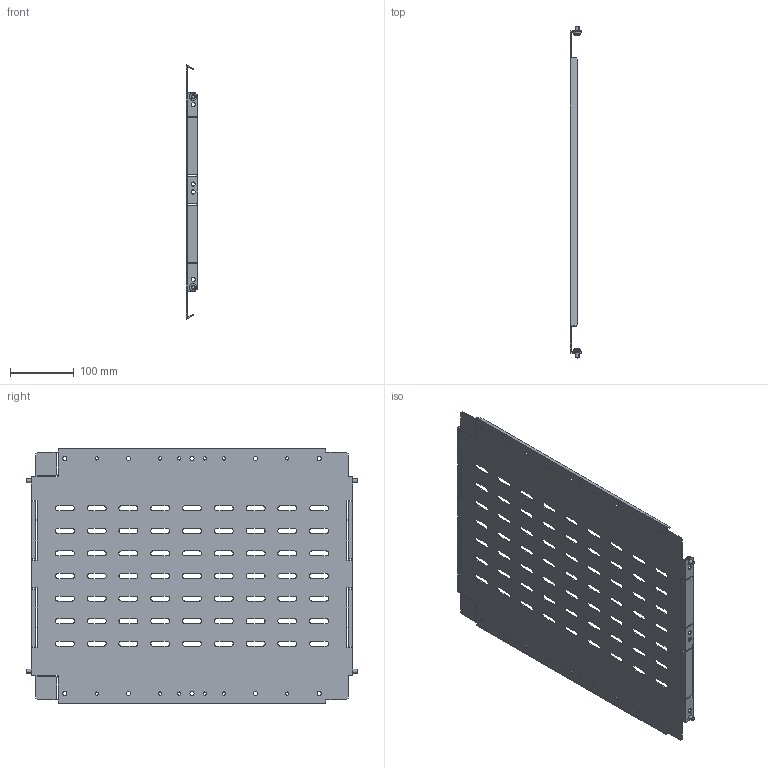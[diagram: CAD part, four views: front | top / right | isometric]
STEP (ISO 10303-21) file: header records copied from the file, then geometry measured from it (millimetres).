
FILE_DESCRIPTION (( 'STEP AP214' ), '1' );
FILE_NAME ('FO-00-SWV-040-060 Ïåðåãîðîäêà ñåêöèîíèðîâàíèÿ âåðòèêàëüíàÿ 400õ600 ìì.STEP', '2025-09-18T13:52:59', ( '' ), ( '' ), 'SwSTEP 2.0', 'SolidWorks 2023', '' );
FILE_SCHEMA (( 'AUTOMOTIVE_DESIGN' ));
Length unit declared in the file: millimetre
Products named in the file (1): FO-00-SWV-040-060 Перегородка секционирования вертикальная 400х600 мм
Bounding box: 17.5 x 521.9 x 400.39 mm (x, y, z)
Volume: 307355.8 mm3; surface area: 420232.1 mm2
Topology: 1 solids, 1 shells, 626 faces, 1840 edges, 1216 vertices
Faces by surface type: plane 324, cylinder 270, cone 16, torus 16
Entity records: 21407 total; most frequent: CARTESIAN_POINT 3683, DIRECTION 3682, ORIENTED_EDGE 3680, EDGE_CURVE 1840, LINE 1252, VECTOR 1252, VERTEX_POINT 1216, AXIS2_PLACEMENT_3D 1215
